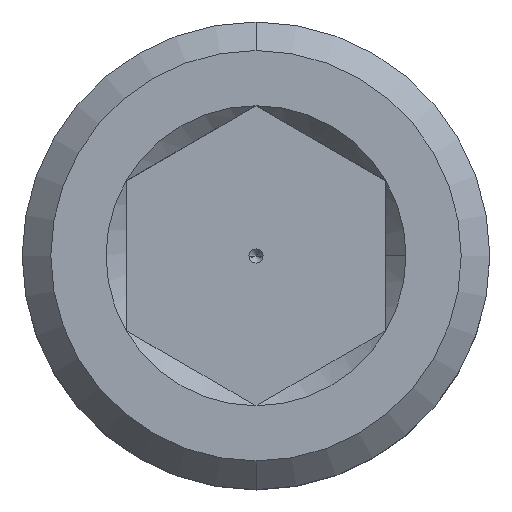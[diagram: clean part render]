
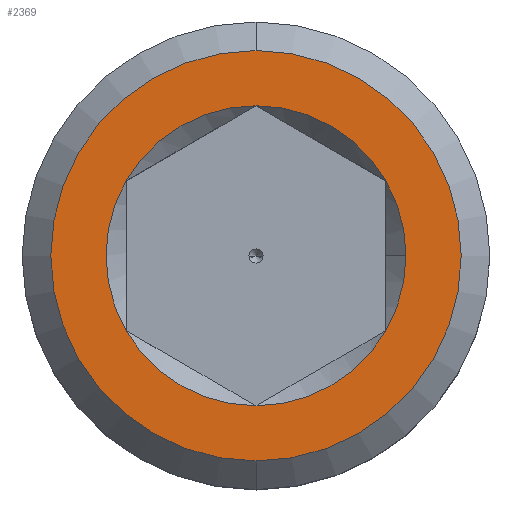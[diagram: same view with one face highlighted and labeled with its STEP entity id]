
A CAD part, top view. The second image highlights one B-rep face of the part: STEP entity #2369.
In plain terms, the highlighted planar face has unit normal (0, 0, 1).
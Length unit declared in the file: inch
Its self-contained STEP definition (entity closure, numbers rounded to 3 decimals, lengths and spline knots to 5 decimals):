
#94 = ORIENTED_EDGE ( 'NONE', *, *, #1469, .F. ) ;
#117 = CARTESIAN_POINT ( 'NONE',  ( 0., 0., 0.168 ) ) ;
#136 = EDGE_CURVE ( 'NONE', #2371, #3058, #2599, .T. ) ;
#204 = AXIS2_PLACEMENT_3D ( 'NONE', #3270, #1329, #549 ) ;
#218 = DIRECTION ( 'NONE',  ( 0., 0., -1. ) ) ;
#265 = CARTESIAN_POINT ( 'NONE',  ( 0., 0.04511, 0.168 ) ) ;
#355 = CARTESIAN_POINT ( 'NONE',  ( 0.04511, 0., 0.168 ) ) ;
#395 = ORIENTED_EDGE ( 'NONE', *, *, #2595, .F. ) ;
#549 = DIRECTION ( 'NONE',  ( 1., 0., 0. ) ) ;
#571 = ORIENTED_EDGE ( 'NONE', *, *, #2694, .F. ) ;
#689 = AXIS2_PLACEMENT_3D ( 'NONE', #1886, #218, #2135 ) ;
#706 = CARTESIAN_POINT ( 'NONE',  ( 0., -0.04511, 0.168 ) ) ;
#734 = EDGE_CURVE ( 'NONE', #1334, #3097, #3108, .T. ) ;
#827 = VERTEX_POINT ( 'NONE', #1070 ) ;
#855 = VERTEX_POINT ( 'NONE', #265 ) ;
#911 = EDGE_CURVE ( 'NONE', #855, #1334, #2349, .T. ) ;
#1070 = CARTESIAN_POINT ( 'NONE',  ( 0.03906, -0.02255, 0.168 ) ) ;
#1143 = EDGE_CURVE ( 'NONE', #3058, #2371, #1388, .T. ) ;
#1200 = CARTESIAN_POINT ( 'NONE',  ( 0., 0., 0.168 ) ) ;
#1237 = CARTESIAN_POINT ( 'NONE',  ( -0.03906, -0.02255, 0.168 ) ) ;
#1325 = DIRECTION ( 'NONE',  ( 0., 0., 1. ) ) ;
#1329 = DIRECTION ( 'NONE',  ( 0., 0., 1. ) ) ;
#1333 = AXIS2_PLACEMENT_3D ( 'NONE', #1692, #2259, #1942 ) ;
#1334 = VERTEX_POINT ( 'NONE', #2648 ) ;
#1342 = DIRECTION ( 'NONE',  ( 1., 0., 0. ) ) ;
#1377 = ORIENTED_EDGE ( 'NONE', *, *, #911, .F. ) ;
#1388 = CIRCLE ( 'NONE', #1333, 0.06171 ) ;
#1426 = FACE_BOUND ( 'NONE', #3341, .T. ) ;
#1451 = DIRECTION ( 'NONE',  ( 0., 0., 1. ) ) ;
#1469 = EDGE_CURVE ( 'NONE', #1799, #855, #1480, .T. ) ;
#1480 = CIRCLE ( 'NONE', #3488, 0.04511 ) ;
#1485 = DIRECTION ( 'NONE',  ( 0., 0., 1. ) ) ;
#1513 = PLANE ( 'NONE',  #3349 ) ;
#1692 = CARTESIAN_POINT ( 'NONE',  ( 0., 0., 0.168 ) ) ;
#1730 = CARTESIAN_POINT ( 'NONE',  ( 0., 0., 0.168 ) ) ;
#1743 = CARTESIAN_POINT ( 'NONE',  ( 0., 0., 0.168 ) ) ;
#1753 = CARTESIAN_POINT ( 'NONE',  ( 0., -0.06171, 0.168 ) ) ;
#1763 = DIRECTION ( 'NONE',  ( 0., 0., 1. ) ) ;
#1799 = VERTEX_POINT ( 'NONE', #1846 ) ;
#1846 = CARTESIAN_POINT ( 'NONE',  ( 0.03906, 0.02255, 0.168 ) ) ;
#1852 = ORIENTED_EDGE ( 'NONE', *, *, #2620, .F. ) ;
#1886 = CARTESIAN_POINT ( 'NONE',  ( 0., 0., 0.168 ) ) ;
#1942 = DIRECTION ( 'NONE',  ( 0., 1., 0. ) ) ;
#1978 = CIRCLE ( 'NONE', #2724, 0.04511 ) ;
#2019 = CARTESIAN_POINT ( 'NONE',  ( 0., 0., 0.168 ) ) ;
#2051 = DIRECTION ( 'NONE',  ( 1., 0., 0. ) ) ;
#2091 = DIRECTION ( 'NONE',  ( 0., 0., 1. ) ) ;
#2121 = AXIS2_PLACEMENT_3D ( 'NONE', #1730, #3399, #2051 ) ;
#2126 = AXIS2_PLACEMENT_3D ( 'NONE', #2019, #3100, #2861 ) ;
#2135 = DIRECTION ( 'NONE',  ( 0., 1., 0. ) ) ;
#2258 = CIRCLE ( 'NONE', #2126, 0.04511 ) ;
#2259 = DIRECTION ( 'NONE',  ( 0., 0., -1. ) ) ;
#2310 = DIRECTION ( 'NONE',  ( 1., 0., 0. ) ) ;
#2314 = DIRECTION ( 'NONE',  ( 1., 0., 0. ) ) ;
#2349 = CIRCLE ( 'NONE', #204, 0.04511 ) ;
#2369 = ADVANCED_FACE ( 'NONE', ( #1426, #2506 ), #1513, .T. ) ;
#2371 = VERTEX_POINT ( 'NONE', #1753 ) ;
#2424 = VERTEX_POINT ( 'NONE', #706 ) ;
#2426 = ORIENTED_EDGE ( 'NONE', *, *, #3250, .F. ) ;
#2435 = CARTESIAN_POINT ( 'NONE',  ( 0., 0., 0.168 ) ) ;
#2467 = ORIENTED_EDGE ( 'NONE', *, *, #734, .F. ) ;
#2506 = FACE_OUTER_BOUND ( 'NONE', #3432, .T. ) ;
#2578 = DIRECTION ( 'NONE',  ( 1., 0., 0. ) ) ;
#2595 = EDGE_CURVE ( 'NONE', #827, #3387, #2258, .T. ) ;
#2599 = CIRCLE ( 'NONE', #689, 0.06171 ) ;
#2620 = EDGE_CURVE ( 'NONE', #3387, #1799, #3103, .T. ) ;
#2648 = CARTESIAN_POINT ( 'NONE',  ( -0.03906, 0.02255, 0.168 ) ) ;
#2694 = EDGE_CURVE ( 'NONE', #2424, #827, #3309, .T. ) ;
#2724 = AXIS2_PLACEMENT_3D ( 'NONE', #2435, #1325, #1342 ) ;
#2861 = DIRECTION ( 'NONE',  ( 1., 0., 0. ) ) ;
#2883 = CARTESIAN_POINT ( 'NONE',  ( 0., 0., 0.168 ) ) ;
#2910 = ORIENTED_EDGE ( 'NONE', *, *, #1143, .F. ) ;
#3058 = VERTEX_POINT ( 'NONE', #3127 ) ;
#3097 = VERTEX_POINT ( 'NONE', #1237 ) ;
#3100 = DIRECTION ( 'NONE',  ( 0., 0., 1. ) ) ;
#3103 = CIRCLE ( 'NONE', #3283, 0.04511 ) ;
#3108 = CIRCLE ( 'NONE', #2121, 0.04511 ) ;
#3127 = CARTESIAN_POINT ( 'NONE',  ( 0., 0.06171, 0.168 ) ) ;
#3171 = DIRECTION ( 'NONE',  ( 0., -1., 0. ) ) ;
#3250 = EDGE_CURVE ( 'NONE', #3097, #2424, #1978, .T. ) ;
#3270 = CARTESIAN_POINT ( 'NONE',  ( 0., 0., 0.168 ) ) ;
#3283 = AXIS2_PLACEMENT_3D ( 'NONE', #1743, #1485, #2314 ) ;
#3309 = CIRCLE ( 'NONE', #3468, 0.04511 ) ;
#3341 = EDGE_LOOP ( 'NONE', ( #571, #2426, #2467, #1377, #94, #1852, #395 ) ) ;
#3349 = AXIS2_PLACEMENT_3D ( 'NONE', #117, #2091, #3171 ) ;
#3352 = ORIENTED_EDGE ( 'NONE', *, *, #136, .F. ) ;
#3387 = VERTEX_POINT ( 'NONE', #355 ) ;
#3399 = DIRECTION ( 'NONE',  ( 0., 0., 1. ) ) ;
#3432 = EDGE_LOOP ( 'NONE', ( #2910, #3352 ) ) ;
#3468 = AXIS2_PLACEMENT_3D ( 'NONE', #1200, #1451, #2578 ) ;
#3488 = AXIS2_PLACEMENT_3D ( 'NONE', #2883, #1763, #2310 ) ;
